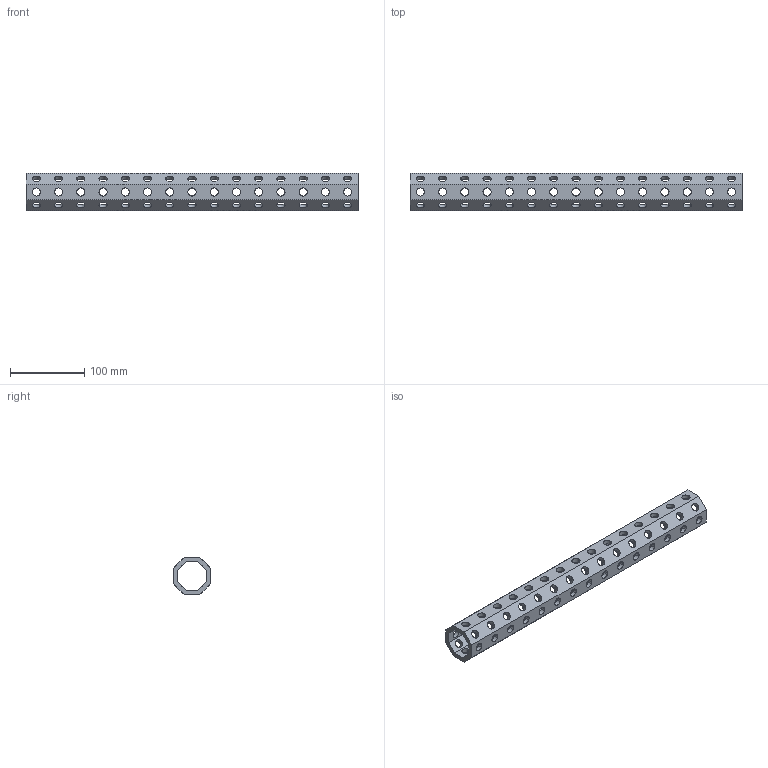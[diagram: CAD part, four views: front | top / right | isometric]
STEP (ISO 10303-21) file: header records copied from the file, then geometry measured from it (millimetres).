
FILE_DESCRIPTION(('STEP AP214'),'1');
FILE_NAME('EGT002_xxxixxx_8KT_PROFIL_SW50.CATPart.stp','2015-09-14T13:03:34',('3D-Tool'),(' '),'Spatial InterOp 3D',' ',' ');
FILE_SCHEMA(('automotive_design'));
Length unit declared in the file: millimetre
Products named in the file (1): EGT002_xxxixxx_8KT_PROFIL_SW50|EGT002_8KT_PROFIL_SW50|Bohrbearbeitung
Bounding box: 448 x 50 x 50 mm (x, y, z)
Volume: 319251.1 mm3; surface area: 134328.3 mm2
Topology: 1 solids, 1 shells, 498 faces, 1488 edges, 992 vertices
Faces by surface type: cylinder 480, plane 18
Entity records: 21845 total; most frequent: DIRECTION 3446, CARTESIAN_POINT 2979, ORIENTED_EDGE 2976, EDGE_CURVE 1488, AXIS2_PLACEMENT_3D 1459, VERTEX_POINT 992, CIRCLE 960, EDGE_LOOP 740
